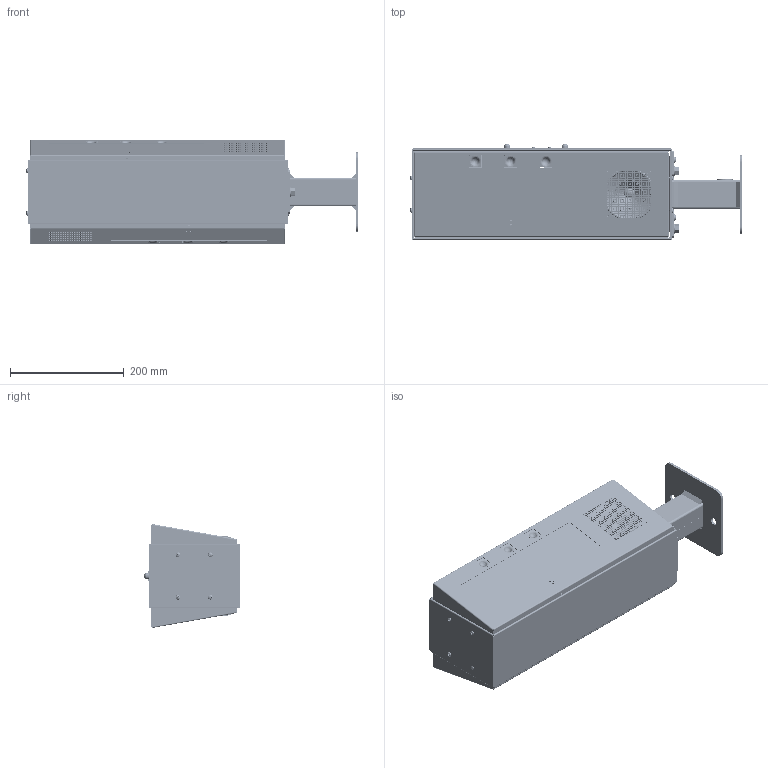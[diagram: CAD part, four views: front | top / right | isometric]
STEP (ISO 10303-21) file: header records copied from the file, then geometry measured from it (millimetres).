
FILE_DESCRIPTION (( 'STEP AP214' ), '1' );
FILE_NAME ('IPCDS-RWB-U.STEP', '2024-01-22T17:55:44', ( '' ), ( '' ), 'SwSTEP 2.0', 'SolidWorks 2018', '' );
FILE_SCHEMA (( 'AUTOMOTIVE_DESIGN' ));
Length unit declared in the file: millimetre
Products named in the file (1): IPCDS-RWB-U
Bounding box: 584.91 x 168.4 x 182.72 mm (x, y, z)
Volume: 1746246.7 mm3; surface area: 1748930.1 mm2
Topology: 1869 solids, 1869 shells, 10307 faces, 18604 edges, 12141 vertices
Faces by surface type: plane 5616, cylinder 3916, cone 328, torus 279, bspline 144, sphere 24
Full cylindrical faces by diameter (mm): 2.156 x4, 3.175 x812, 3.454 x8, 3.7 x1792, 4.826 x8, 4.978 x4, 5.537 x8, 5.563 x2, 6.35 x2, 6.401 x4, 7.937 x4, 7.938 x4, 8.179 x8, 8.712 x4, 8.738 x4, 10.094 x4, 10.465 x4, 10.541 x4, 11.176 x4, 11.732 x4, 12.7 x4, 13.005 x2, 15.376 x2, 17.462 x2, 22.225 x1, 27.381 x1, 92 x2, 94 x2, 100 x2
Entity records: 442021 total; most frequent: CARTESIAN_POINT 113030, DIRECTION 42642, ORIENTED_EDGE 31326, AXIS2_PLACEMENT_3D 18269, EDGE_CURVE 15663, EDGE_LOOP 15092, FACE_OUTER_BOUND 13076, UNCERTAINTY_MEASURE_WITH_UNIT 12172
